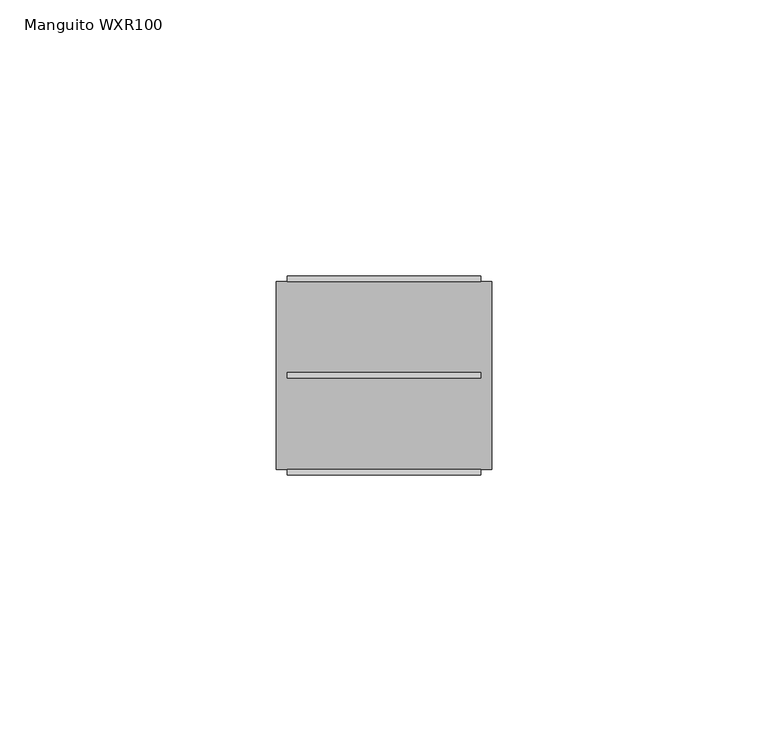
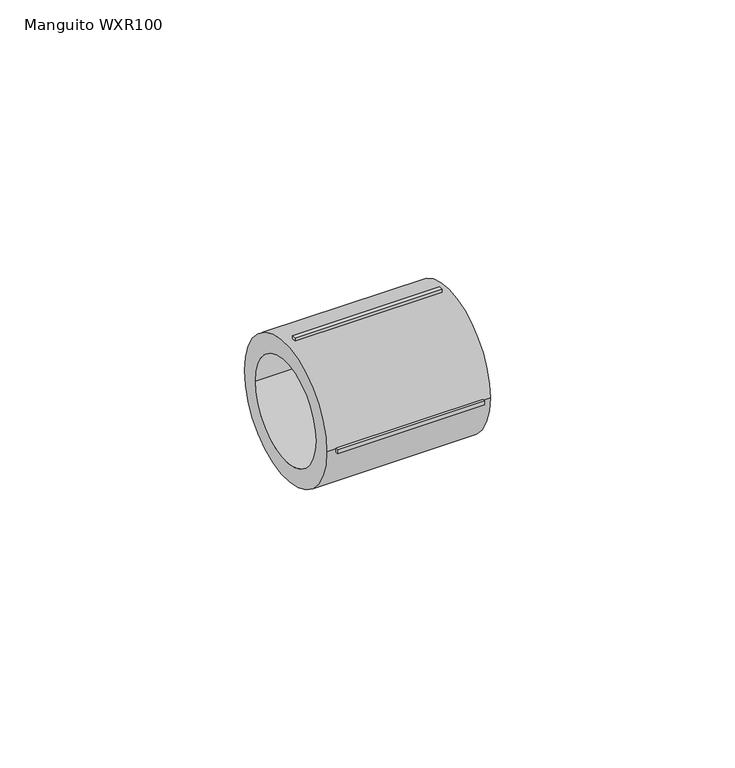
"""IFC4 building model written with IfcOpenShell, lengths in millimetres: pipe fitting geometry, EGB_VASEN_ PPR_Manguito WXR100 : Manguito WXR100."""

from ifc_helpers import new_model, si_unit, point, frame, origin, origin_2d, place, context, project, spatial, polyline, circle_curve, trimmed, segment, composite_curve, outline, extrude, source, transform, mapped, element, save


def manguito_wxr100_866fd5cf(model_context):
    return source(origin(), model_context, "Body", "SweptSolid", [
        extrude(outline(composite_curve([segment(trimmed(circle_curve(origin_2d(), 17.0), [point((-17.0, 0.0))], [point((17.0, 0.0))], False, "CARTESIAN"), True, "CONTINUOUS"), segment(trimmed(circle_curve(origin_2d(), 17.0), [point((17.0, 0.0))], [point((-17.0, 0.0))], False, "CARTESIAN"), True, "CONTINUOUS")], self_intersect=False), holes=[composite_curve([segment(trimmed(circle_curve(origin_2d(), 12.5), [point((-12.5, 0.0))], [point((12.5, 0.0))], True, "CARTESIAN"), True, "CONTINUOUS"), segment(trimmed(circle_curve(origin_2d(), 12.5), [point((12.5, 0.0))], [point((-12.5, 0.0))], True, "CARTESIAN"), True, "CONTINUOUS")], self_intersect=False)]), frame((-19.5, 0.0, 0.0), z_axis=(1.0, 0.0, 0.0), x_axis=(0.0, 1.0, 0.0)), (0.0, 0.0, 1.0), 39.0),
        extrude(outline(polyline([(17.55, 0.5), (17.55, -0.5), (-17.55, -0.5), (-17.55, 0.5), (17.55, 0.5)])), frame((0.0, 0.0, 16.0), z_axis=(0.0, 0.0, 1.0), x_axis=(1.0, 0.0, 0.0)), (0.0, 0.0, 1.0), 2.0),
        extrude(outline(polyline([(17.55, 0.5), (17.55, -0.5), (-17.55, -0.5), (-17.55, 0.5), (17.55, 0.5)])), frame((0.0, 0.0, -18.0), z_axis=(0.0, 0.0, 1.0), x_axis=(1.0, 0.0, 0.0)), (0.0, 0.0, 1.0), 2.0),
        extrude(outline(polyline([(17.55, 18.0), (17.55, 16.0), (-17.55, 16.0), (-17.55, 18.0), (17.55, 18.0)])), frame((0.0, 0.0, -0.5), z_axis=(0.0, 0.0, 1.0), x_axis=(1.0, 0.0, 0.0)), (0.0, 0.0, 1.0), 1.0),
        extrude(outline(polyline([(17.55, -16.0), (17.55, -18.0), (-17.55, -18.0), (-17.55, -16.0), (17.55, -16.0)])), frame((0.0, 0.0, -0.5), z_axis=(0.0, 0.0, 1.0), x_axis=(1.0, 0.0, 0.0)), (0.0, 0.0, 1.0), 1.0),
    ])


if __name__ == "__main__":
    model = new_model("IFC4")
    model_context = context("Model", 3, world=origin())
    ifc_project = project(units=[si_unit("LENGTHUNIT", "METRE", prefix="MILLI")], contexts=[model_context])
    site = spatial("IfcSite", under=ifc_project)
    building = spatial("IfcBuilding", under=site)
    placement = place(None, origin())
    manguito_wxr100_shape = manguito_wxr100_866fd5cf(model_context)
    element("IfcPipeFitting", 1, ObjectType="EGB_VASEN_ PPR_Manguito WXR100 : Manguito WXR100", at=placement, inside=building, context=model_context, shape_type="MappedRepresentation", body=[
        mapped(manguito_wxr100_shape, transform((0.0, 0.0, 0.0), x_axis=(1.0, 0.0, 0.0), y_axis=(0.0, 1.0, 0.0), z_axis=(0.0, 0.0, 1.0))),
    ])
    save(model, "model.ifc")
